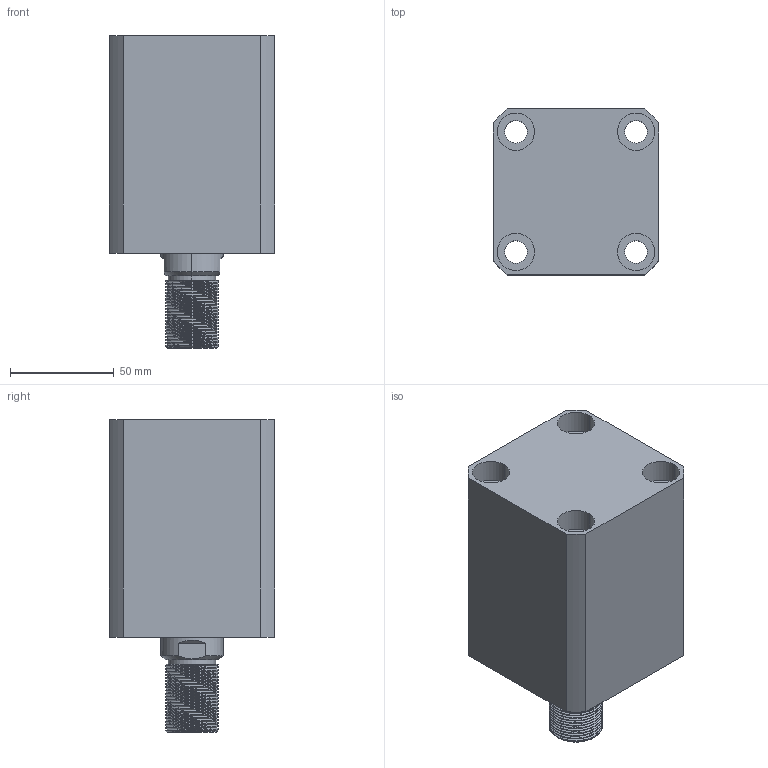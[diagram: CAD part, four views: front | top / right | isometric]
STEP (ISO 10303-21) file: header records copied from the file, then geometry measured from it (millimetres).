
FILE_DESCRIPTION (( 'STEP AP203' ), '1' );
FILE_NAME ('CHTB-SDMA50-45W.STEP', '2018-05-19T01:59:19', ( '' ), ( '' ), 'SwSTEP 2.0', 'SolidWorks 2015', '' );
FILE_SCHEMA (( 'CONFIG_CONTROL_DESIGN' ));
Length unit declared in the file: millimetre
Products named in the file (5): CHTM-SDMA50QG; 活塞杆SDMA50-45W; M6; 掛极SDMA50-45W; CHTB-SDMA50-45W
Assembly tree (5 placements, depth 2):
  CHTB-SDMA50-45W
    掛极SDMA50-45W
    活塞杆SDMA50-45W
    CHTM-SDMA50QG
    M6  x2
Bounding box: 80 x 80 x 151 mm (x, y, z)
Volume: 571540.6 mm3; surface area: 114021.4 mm2
Topology: 5 solids, 5 shells, 312 faces, 831 edges, 553 vertices
Faces by surface type: cylinder 179, plane 60, cone 29, bspline 28, torus 16
Entity records: 17949 total; most frequent: CARTESIAN_POINT 11067, ORIENTED_EDGE 1468, DIRECTION 1169, EDGE_CURVE 734, VERTEX_POINT 492, AXIS2_PLACEMENT_3D 472, EDGE_LOOP 320, FACE_OUTER_BOUND 277
